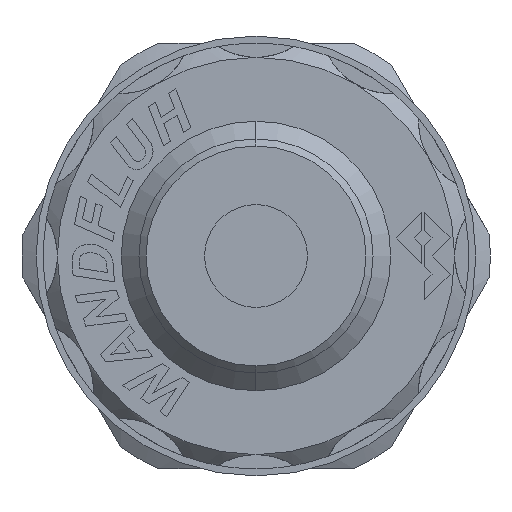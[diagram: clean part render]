
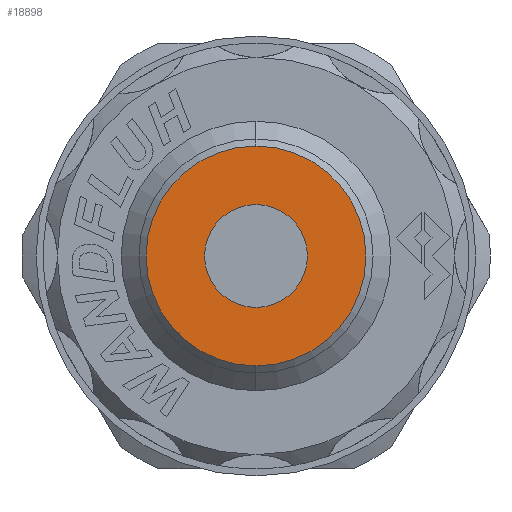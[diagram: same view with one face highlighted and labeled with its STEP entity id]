
A CAD part, left-side view. The second image highlights one B-rep face of the part: STEP entity #18898.
In plain terms, the highlighted planar face has unit normal (-1, 0, 0).
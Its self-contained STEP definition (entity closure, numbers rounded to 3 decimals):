
#2821 = CIRCLE ( 'NONE', #16624, 3.625 ) ;
#4016 = CIRCLE ( 'NONE', #17517, 7.75 ) ;
#4175 = CARTESIAN_POINT ( 'NONE',  ( -70.9, 0., -7.75 ) ) ;
#5045 = VERTEX_POINT ( 'NONE', #7032 ) ;
#5627 = EDGE_CURVE ( 'NONE', #5045, #10370, #8572, .T. ) ;
#5634 = EDGE_CURVE ( 'NONE', #19460, #10828, #12438, .T. ) ;
#5711 = ORIENTED_EDGE ( 'NONE', *, *, #5627, .F. ) ;
#6776 = DIRECTION ( 'NONE',  ( 0., 0., -1. ) ) ;
#6797 = DIRECTION ( 'NONE',  ( -1., 0., 0. ) ) ;
#6817 = CARTESIAN_POINT ( 'NONE',  ( -70.9, -3.625, 0. ) ) ;
#7012 = DIRECTION ( 'NONE',  ( 0., 0., -1. ) ) ;
#7032 = CARTESIAN_POINT ( 'NONE',  ( -70.9, 0., -3.625 ) ) ;
#7034 = DIRECTION ( 'NONE',  ( -1., 0., 0. ) ) ;
#7059 = CARTESIAN_POINT ( 'NONE',  ( -70.9, 0., 0. ) ) ;
#7167 = PLANE ( 'NONE',  #16533 ) ;
#8572 = CIRCLE ( 'NONE', #13029, 3.625 ) ;
#9328 = CARTESIAN_POINT ( 'NONE',  ( -70.9, 0., 3.625 ) ) ;
#10370 = VERTEX_POINT ( 'NONE', #9328 ) ;
#10424 = FACE_OUTER_BOUND ( 'NONE', #14633, .T. ) ;
#10828 = VERTEX_POINT ( 'NONE', #4175 ) ;
#12117 = EDGE_LOOP ( 'NONE', ( #5711, #18406 ) ) ;
#12438 = CIRCLE ( 'NONE', #12993, 7.75 ) ;
#12993 = AXIS2_PLACEMENT_3D ( 'NONE', #16273, #16255, #16203 ) ;
#13029 = AXIS2_PLACEMENT_3D ( 'NONE', #16683, #16482, #16462 ) ;
#14452 = FACE_BOUND ( 'NONE', #12117, .T. ) ;
#14633 = EDGE_LOOP ( 'NONE', ( #20085, #18320 ) ) ;
#15068 = CARTESIAN_POINT ( 'NONE',  ( -70.9, 0., 7.75 ) ) ;
#16203 = DIRECTION ( 'NONE',  ( 0., 0., -1. ) ) ;
#16255 = DIRECTION ( 'NONE',  ( -1., 0., 0. ) ) ;
#16273 = CARTESIAN_POINT ( 'NONE',  ( -70.9, 0., 0. ) ) ;
#16462 = DIRECTION ( 'NONE',  ( 0., 0., -1. ) ) ;
#16482 = DIRECTION ( 'NONE',  ( -1., 0., 0. ) ) ;
#16490 = DIRECTION ( 'NONE',  ( 0., 0., -1. ) ) ;
#16533 = AXIS2_PLACEMENT_3D ( 'NONE', #6817, #6797, #6776 ) ;
#16624 = AXIS2_PLACEMENT_3D ( 'NONE', #7059, #7034, #7012 ) ;
#16683 = CARTESIAN_POINT ( 'NONE',  ( -70.9, 0., 0. ) ) ;
#17517 = AXIS2_PLACEMENT_3D ( 'NONE', #17912, #17734, #16490 ) ;
#17734 = DIRECTION ( 'NONE',  ( -1., 0., 0. ) ) ;
#17912 = CARTESIAN_POINT ( 'NONE',  ( -70.9, 0., 0. ) ) ;
#18320 = ORIENTED_EDGE ( 'NONE', *, *, #18636, .T. ) ;
#18406 = ORIENTED_EDGE ( 'NONE', *, *, #18879, .F. ) ;
#18636 = EDGE_CURVE ( 'NONE', #10828, #19460, #4016, .T. ) ;
#18879 = EDGE_CURVE ( 'NONE', #10370, #5045, #2821, .T. ) ;
#18898 = ADVANCED_FACE ( 'NONE', ( #10424, #14452 ), #7167, .T. ) ;
#19460 = VERTEX_POINT ( 'NONE', #15068 ) ;
#20085 = ORIENTED_EDGE ( 'NONE', *, *, #5634, .T. ) ;
